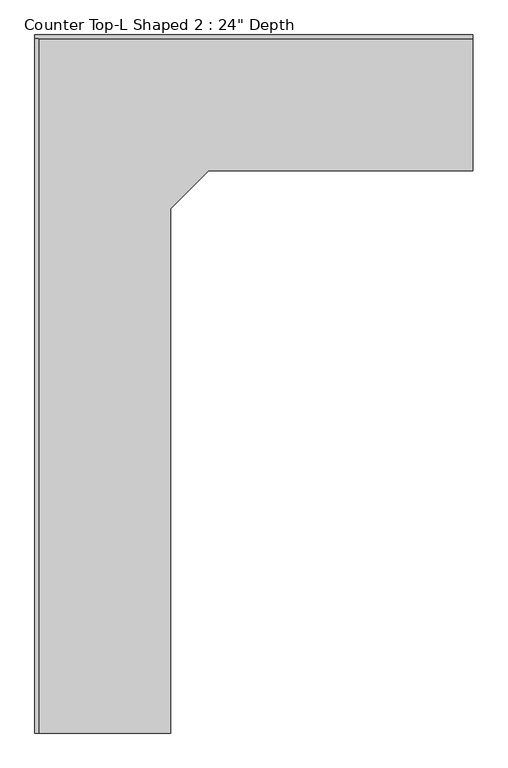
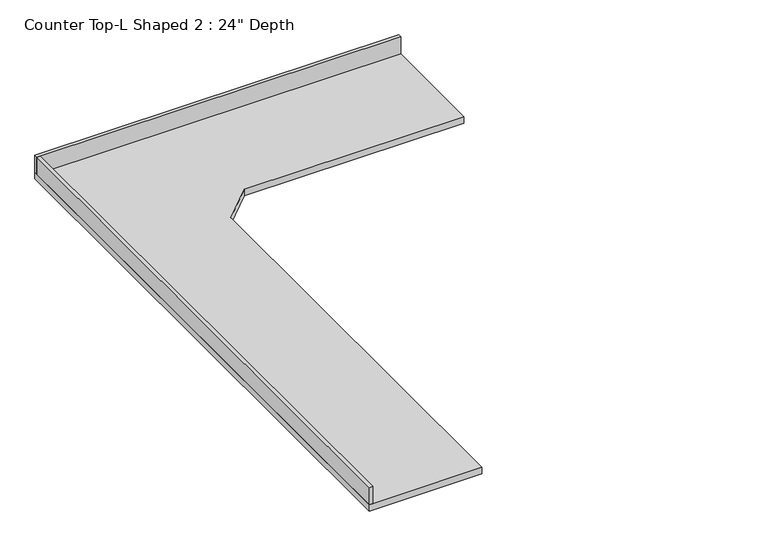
"""IFC4 building model written with IfcOpenShell, lengths in millimetres: furniture geometry."""

from ifc_helpers import new_model, si_unit, frame, origin, place, context, project, spatial, polyline, outline, extrude, source, transform, mapped, element, save


def furniture_c58d4479(model_context):
    return source(origin(), model_context, "Body", "SweptSolid", [
        extrude(outline(polyline([(-1181.4122951, -19.05), (-1181.4122951, -3263.0), (-1200.4622951, -3263.0), (-1200.4622951, -19.05), (-1181.4122951, -19.05)])), frame((0.0, 0.0, 914.4), z_axis=(0.0, 0.0, 1.0), x_axis=(1.0, 0.0, 0.0)), (0.0, 0.0, 1.0), 101.6),
        extrude(outline(polyline([(-1200.4622951, 0.0), (849.2229619, 0.0), (849.2229619, -19.05), (-1200.4622951, -19.05), (-1200.4622951, 0.0)])), frame((0.0, 0.0, 914.4), z_axis=(0.0, 0.0, 1.0), x_axis=(1.0, 0.0, 0.0)), (0.0, 0.0, 1.0), 101.6),
        extrude(outline(polyline([(849.2229619, 0.0), (849.2229619, -635.0), (-387.6622951, -635.0), (-565.4622951, -812.8), (-565.4622951, -3263.0), (-1200.4622951, -3263.0), (-1200.4622951, 0.0), (849.2229619, 0.0)])), frame((0.0, 0.0, 876.3), z_axis=(0.0, 0.0, 1.0), x_axis=(1.0, 0.0, 0.0)), (0.0, 0.0, 1.0), 38.1),
    ])


if __name__ == "__main__":
    model = new_model("IFC4")
    model_context = context("Model", 3, world=origin())
    ifc_project = project(units=[si_unit("LENGTHUNIT", "METRE", prefix="MILLI")], contexts=[model_context])
    site = spatial("IfcSite", under=ifc_project)
    building = spatial("IfcBuilding", under=site)
    placement = place(None, origin())
    furniture_shape = furniture_c58d4479(model_context)
    element("IfcFurniture", 1, ObjectType="Counter Top-L Shaped 2 : 24\" Depth", at=placement, inside=building, context=model_context, shape_type="MappedRepresentation", body=[
        mapped(furniture_shape, transform((0.0, 0.0, 0.0), x_axis=(1.0, 0.0, 0.0), y_axis=(0.0, 1.0, 0.0), z_axis=(0.0, 0.0, 1.0))),
    ])
    save(model, "model.ifc")
